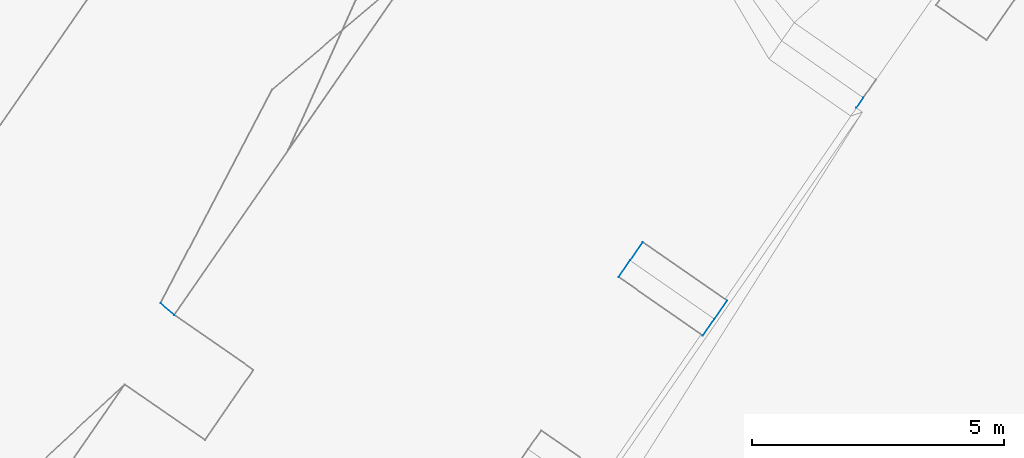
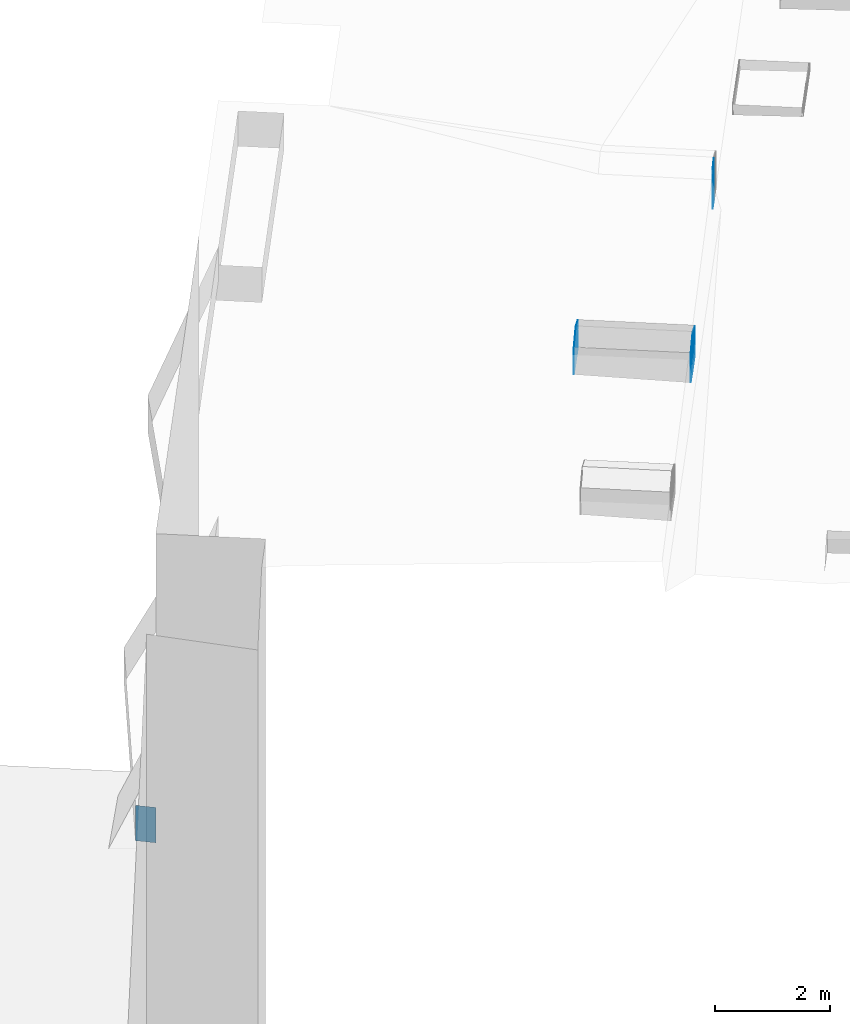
# Not in any storey, part 99 of 136: 7 walls.
"""IFC4 building model written with IfcOpenShell, lengths in metres."""

import ifcopenshell
import ifcopenshell.guid

model = None  # the IFC model being written
_history = None  # IfcOwnerHistory: only IFC2X3 demands one
_inside = {}  # id of a spatial element -> (the spatial element, [elements in it])
_under = {}  # id of a project, library or spatial element -> (it, [spatial elements below it])
_declared = {}  # id of a project -> (the project, [libraries it declares])
_typed = {}  # id of a type object -> (the type object, [elements of that type])
_made_of = {}  # id of a material, layer set ... -> (it, [elements and type objects made of it])


def new_model(schema):
    """Start an empty IFC model of exactly this schema.

    Asked for "IFC4X3", IfcOpenShell would pick the latest addendum, in which some entities
    have other attributes; the version numbers below select the first issue.
    IFC2X3 requires an IfcOwnerHistory on every rooted entity: one is made here for all.
    """
    global model, _history
    if schema == "IFC4X3":
        model = ifcopenshell.file(schema_version=(4, 3, 0, 0))
    else:
        model = ifcopenshell.file(schema=schema)
    _inside.clear()
    _under.clear()
    _declared.clear()
    _typed.clear()
    _made_of.clear()
    _history = None
    if model.schema == "IFC2X3":
        org = make("IfcOrganization", Name="unknown")
        user = make(
            "IfcPersonAndOrganization",
            ThePerson=make("IfcPerson", FamilyName="unknown"),
            TheOrganization=org,
        )
        app = make(
            "IfcApplication",
            ApplicationDeveloper=org,
            Version="unknown",
            ApplicationFullName="unknown",
            ApplicationIdentifier="unknown",
        )
        _history = make(
            "IfcOwnerHistory",
            OwningUser=user,
            OwningApplication=app,
            ChangeAction="ADDED",
            CreationDate=0,
        )
    return model


def make(cls, **values):
    """One entity of the class cls with the attributes given. An attribute that is None is left unset."""
    return model.create_entity(
        cls, **{name: value for name, value in values.items() if value is not None}
    )


def entity(cls, *values):
    """Any entity or typed value of the class cls, its attributes in the order of the schema. None: left unset."""
    e = model.create_entity(cls)
    for i, value in enumerate(values):
        if value is not None:
            e[i] = value
    return e


def rooted(cls, **values):
    """An entity with a GlobalId (a new one), such as an element, a storey or a relation."""
    return make(cls, GlobalId=ifcopenshell.guid.new(), OwnerHistory=_history, **values)


def si_unit(unit_type, name, prefix=None):
    """IfcSIUnit, for example si_unit("LENGTHUNIT", "METRE", prefix="MILLI")."""
    return make("IfcSIUnit", UnitType=unit_type, Prefix=prefix, Name=name)


def converted_unit(unit_type, name, factor, base, dimensions=None, offset=None):
    """IfcConversionBasedUnit, such as the inch: factor (a typed value) times the base unit."""
    return make(
        "IfcConversionBasedUnit"
        if offset is None
        else "IfcConversionBasedUnitWithOffset",
        ConversionOffset=offset,
        Dimensions=None
        if dimensions is None
        else entity("IfcDimensionalExponents", *dimensions),
        UnitType=unit_type,
        Name=name,
        ConversionFactor=make(
            "IfcMeasureWithUnit", ValueComponent=factor, UnitComponent=base
        ),
    )


def assignment(units):
    """IfcUnitAssignment: the units of a project."""
    return None if units is None else make("IfcUnitAssignment", Units=units)


def point(xyz):
    """IfcCartesianPoint."""
    return None if xyz is None else make("IfcCartesianPoint", Coordinates=xyz)


def direction(xyz):
    """IfcDirection."""
    return None if xyz is None else make("IfcDirection", DirectionRatios=xyz)


def frame(location, z_axis=None, x_axis=None):
    """IfcAxis2Placement3D, a coordinate frame: its origin and axes. An axis left out is left unset."""
    return make(
        "IfcAxis2Placement3D",
        Location=point(location),
        Axis=direction(z_axis),
        RefDirection=direction(x_axis),
    )


def origin():
    """The frame at (0, 0, 0) with its axes left unset."""
    return frame((0.0, 0.0, 0.0))


def place(relative_to, where):
    """IfcLocalPlacement: puts the frame where relative to a parent placement (None: the world)."""
    return make(
        "IfcLocalPlacement", PlacementRelTo=relative_to, RelativePlacement=where
    )


def context(
    kind, dimensions, precision=None, world=None, true_north=None, identifier=None
):
    """IfcGeometricRepresentationContext, for example the 3D "Model" context."""
    return make(
        "IfcGeometricRepresentationContext",
        ContextIdentifier=identifier,
        ContextType=kind,
        CoordinateSpaceDimension=dimensions,
        Precision=precision,
        WorldCoordinateSystem=world,
        TrueNorth=true_north,
    )


def subcontext(parent, identifier, kind, view, scale=None):
    """IfcGeometricRepresentationSubContext, for example "Body" below "Model"."""
    return make(
        "IfcGeometricRepresentationSubContext",
        ContextIdentifier=identifier,
        ContextType=kind,
        ParentContext=parent,
        TargetScale=scale,
        TargetView=view,
    )


def project(units=None, contexts=None):
    """IfcProject with its units and contexts."""
    return rooted(
        "IfcProject",
        Name="project",
        RepresentationContexts=contexts,
        UnitsInContext=assignment(units),
    )


def spatial(cls, under=None, at=None, **own):
    """A site, building, storey or space (cls), placed at a placement, below another one or the project."""
    s = rooted(cls, ObjectPlacement=at, **own)
    if under is not None:
        _under.setdefault(under.id(), (under, []))[1].append(s)
    return s


def faces_of(points, faces, orient=None, outer=None):
    """IfcFace entities. A face is a list of loops; a loop is a list of indices into points, from 0.

    orient and outer hold one flag for each loop. By default every Orientation is true, the
    first loop of a face is its IfcFaceOuterBound and the others are IfcFaceBound.
    """
    made = []
    for i, loops in enumerate(faces):
        bounds = []
        for j, loop in enumerate(loops):
            is_outer = j == 0 if outer is None else outer[i][j]
            bounds.append(
                make(
                    "IfcFaceOuterBound" if is_outer else "IfcFaceBound",
                    Bound=make("IfcPolyLoop", Polygon=[points[k] for k in loop]),
                    Orientation=True if orient is None else orient[i][j],
                )
            )
        made.append(make("IfcFace", Bounds=bounds))
    return made


def face_set(faces, orient=None, outer=None):
    """The faces of one IfcConnectedFaceSet. surface_model builds it on its shared points."""
    return ("IfcConnectedFaceSet", faces, orient, outer)


def surface_model(cls, points, shells):
    """IfcFaceBasedSurfaceModel or IfcShellBasedSurfaceModel (cls): surfaces that need not close."""
    shared = [point(p) for p in points]
    made = [make(c, CfsFaces=faces_of(shared, fs, o, b)) for c, fs, o, b in shells]
    if cls == "IfcFaceBasedSurfaceModel":
        return make(cls, FbsmFaces=made)
    return make(cls, SbsmBoundary=made)


def shape(context_of_items, identifier, shape_type, items):
    """IfcShapeRepresentation: the items that make up one representation, for example the "Body"."""
    return make(
        "IfcShapeRepresentation",
        ContextOfItems=context_of_items,
        RepresentationIdentifier=identifier,
        RepresentationType=shape_type,
        Items=items,
    )


def made_of(thing, what):
    """Note that an element or type object is made of a material, layer set ...; save() writes the relation."""
    if what is not None:
        _made_of.setdefault(what.id(), (what, []))[1].append(thing)
    return thing


def element(
    cls,
    number,
    at=None,
    inside=None,
    cuts=None,
    type_object=None,
    material=None,
    context=None,
    identifier="Body",
    shape_type=None,
    held_by="IfcProductDefinitionShape",
    body=None,
    shapes=None,
    **own,
):
    """One element of the class cls, such as IfcWall. Its Tag is "e" and its number.

    at: its placement. inside: the storey or other place that contains it. cuts: it is an
    opening in that element (IfcRelVoidsElement). A single representation is given by context,
    identifier, shape_type and body (its items); several are given by shapes. held_by: the class
    of the entity that holds the representations. save() writes the other relations.
    """
    e = rooted(cls, Tag="e%d" % number, ObjectPlacement=at, **own)
    if body is not None:
        shapes = [shape(context, identifier, shape_type, body)]
    if shapes is not None:
        e.Representation = make(held_by, Representations=shapes)
    if inside is not None:
        _inside.setdefault(inside.id(), (inside, []))[1].append(e)
    if cuts is not None:
        rooted(
            "IfcRelVoidsElement", RelatingBuildingElement=cuts, RelatedOpeningElement=e
        )
    if type_object is not None:
        _typed.setdefault(type_object.id(), (type_object, []))[1].append(e)
    return made_of(e, material)


def aggregate(whole, parts):
    """IfcRelAggregates: a whole, such as a stair, and the parts it consists of."""
    return rooted("IfcRelAggregates", RelatingObject=whole, RelatedObjects=parts)


def save(model, path):
    """Write the relations noted so far, then the file.

    IfcRelAggregates (storeys below a building ...), IfcRelContainedInSpatialStructure (elements
    in a storey), IfcRelDefinesByType, IfcRelAssociatesMaterial and IfcRelDeclares: one each for
    every whole, place, type object, material and project.
    """
    for whole, parts in _under.values():
        aggregate(whole, parts)
    for where, things in _inside.values():
        rooted(
            "IfcRelContainedInSpatialStructure",
            RelatedElements=things,
            RelatingStructure=where,
        )
    for kind, things in _typed.values():
        rooted("IfcRelDefinesByType", RelatedObjects=things, RelatingType=kind)
    for what, things in _made_of.values():
        rooted("IfcRelAssociatesMaterial", RelatedObjects=things, RelatingMaterial=what)
    for by, libraries in _declared.values():
        rooted("IfcRelDeclares", RelatingContext=by, RelatedDefinitions=libraries)
    model.write(path)


model = new_model("IFC4")

# Units and contexts
model_context = context("Model", 3, precision=1e-05, world=origin())
body_context = subcontext(model_context, "Body", "Model", "MODEL_VIEW")
ifc_project = project(units=[converted_unit("PLANEANGLEUNIT", "DEGREE", entity("IfcRatioMeasure", 0.0174532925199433), si_unit("PLANEANGLEUNIT", "RADIAN"), dimensions=[0, 0, 0, 0, 0, 0, 0]), si_unit("AREAUNIT", "SQUARE_METRE"), si_unit("LENGTHUNIT", "METRE")], contexts=[model_context])

# Site, building
site_placement = place(None, origin())
site = spatial("IfcSite", under=ifc_project, at=site_placement, Name="_site")
building_placement = place(site_placement, origin())
building = spatial("IfcBuilding", under=site, at=building_placement, Name="_building")

# Walls
wall_1_placement = place(building_placement, origin())
element("IfcWall", 1, at=wall_1_placement, inside=building, Name="Wall", PredefinedType="NOTDEFINED", context=body_context, shape_type="SurfaceModel", body=[
    surface_model("IfcFaceBasedSurfaceModel", [(-9.24, 58.95, 54.35), (-9.49, 58.59, 54.52), (-9.49, 58.59, 53.714), (-9.24, 58.95, 53.711)], [face_set([[[0, 1, 2, 3]]])]),
])
wall_2_placement = place(building_placement, origin())
element("IfcWall", 2, at=wall_2_placement, inside=building, Name="Wall", PredefinedType="NOTDEFINED", context=body_context, shape_type="SurfaceModel", body=[
    surface_model("IfcFaceBasedSurfaceModel", [(-11.16, 59.75, 54.52), (-10.91, 60.11, 54.35), (-10.91, 60.11, 53.766), (-11.16, 59.75, 53.768)], [face_set([[[0, 1, 2, 3]]])]),
])
wall_3_placement = place(building_placement, origin())
element("IfcWall", 3, at=wall_3_placement, inside=building, Name="Wall", PredefinedType="NOTDEFINED", context=body_context, shape_type="SurfaceModel", body=[
    surface_model("IfcFaceBasedSurfaceModel", [(-9.49, 58.59, 54.52), (-9.72, 58.26, 54.35), (-9.72, 58.26, 53.716), (-9.49, 58.59, 53.714)], [face_set([[[0, 1, 2, 3]]])]),
])
wall_4_placement = place(building_placement, origin())
element("IfcWall", 4, at=wall_4_placement, inside=building, Name="Wall", PredefinedType="NOTDEFINED", context=body_context, shape_type="SurfaceModel", body=[
    surface_model("IfcFaceBasedSurfaceModel", [(-11.39, 59.42, 54.35), (-11.16, 59.75, 54.52), (-11.16, 59.75, 53.768), (-11.39, 59.42, 53.771)], [face_set([[[0, 1, 2, 3]]])]),
])
for number, where, name in (
    (5, (0.0, 0.0, 0.0), "Wall"),
    (6, (0.0, 0.0, 0.0), "Wall"),
):
    element("IfcWall", number, at=place(building_placement, frame(where)), inside=building, Name=name, PredefinedType="NOTDEFINED", context=body_context, shape_type="SurfaceModel", body=[
        surface_model("IfcFaceBasedSurfaceModel", [(-20.19, 58.67, 47.4), (-20.46, 58.9, 47.4), (-20.46, 58.9, 48.15), (-20.19, 58.67, 48.15)], [face_set([[[0, 1, 2, 3]]])]),
    ])
wall_5_placement = place(building_placement, origin())
element("IfcWall", 7, at=wall_5_placement, inside=building, Name="Wall", PredefinedType="NOTDEFINED", context=body_context, shape_type="SurfaceModel", body=[
    surface_model("IfcFaceBasedSurfaceModel", [(-6.54, 62.97, 54.52), (-6.679, 62.771, 54.426), (-6.679, 62.771, 53.59), (-6.54, 62.97, 53.59)], [face_set([[[0, 1, 2, 3]]])]),
])

save(model, "model.ifc")
